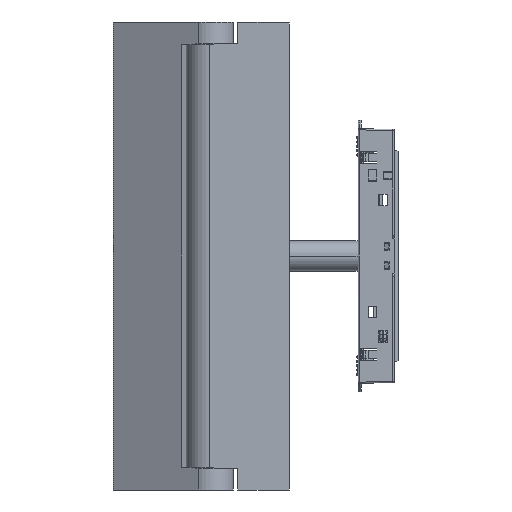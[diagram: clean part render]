
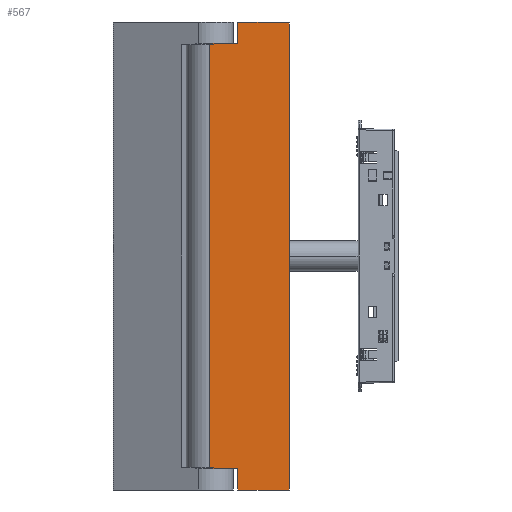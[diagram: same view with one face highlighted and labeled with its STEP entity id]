
A CAD part, left-side view. The second image highlights one B-rep face of the part: STEP entity #567.
In plain terms, the highlighted planar face has unit normal (-1, 0, 0).
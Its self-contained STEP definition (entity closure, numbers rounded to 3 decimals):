
#55=DIRECTION('',(0.,-1.,0.));
#56=VECTOR('',#55,24.);
#57=CARTESIAN_POINT('',(-11.,5.5,-109.));
#58=LINE('',#57,#56);
#101=DIRECTION('',(0.,0.,1.));
#102=VECTOR('',#101,218.);
#103=CARTESIAN_POINT('',(-11.,-18.5,-109.));
#104=LINE('',#103,#102);
#121=DIRECTION('',(0.,-1.,0.));
#122=VECTOR('',#121,13.);
#123=CARTESIAN_POINT('',(-11.,18.5,-99.));
#124=LINE('',#123,#122);
#125=DIRECTION('',(0.,0.,1.));
#126=VECTOR('',#125,198.);
#127=CARTESIAN_POINT('',(-11.,18.5,-99.));
#128=LINE('',#127,#126);
#129=DIRECTION('',(0.,-1.,0.));
#130=VECTOR('',#129,13.);
#131=CARTESIAN_POINT('',(-11.,18.5,99.));
#132=LINE('',#131,#130);
#133=DIRECTION('',(0.,0.,-1.));
#134=VECTOR('',#133,10.);
#135=CARTESIAN_POINT('',(-11.,5.5,109.));
#136=LINE('',#135,#134);
#137=DIRECTION('',(0.,0.,1.));
#138=VECTOR('',#137,10.);
#139=CARTESIAN_POINT('',(-11.,5.5,-109.));
#140=LINE('',#139,#138);
#181=DIRECTION('',(0.,-1.,0.));
#182=VECTOR('',#181,24.);
#183=CARTESIAN_POINT('',(-11.,5.5,109.));
#184=LINE('',#183,#182);
#355=CARTESIAN_POINT('',(-11.,-18.5,-109.));
#357=VERTEX_POINT('',#355);
#359=CARTESIAN_POINT('',(-11.,-18.5,109.));
#361=VERTEX_POINT('',#359);
#364=CARTESIAN_POINT('',(-11.,5.5,109.));
#366=VERTEX_POINT('',#364);
#371=CARTESIAN_POINT('',(-11.,18.5,99.));
#372=VERTEX_POINT('',#371);
#373=CARTESIAN_POINT('',(-11.,5.5,99.));
#374=VERTEX_POINT('',#373);
#375=CARTESIAN_POINT('',(-11.,5.5,-99.));
#377=VERTEX_POINT('',#375);
#380=CARTESIAN_POINT('',(-11.,5.5,-109.));
#382=VERTEX_POINT('',#380);
#385=CARTESIAN_POINT('',(-11.,18.5,-99.));
#386=VERTEX_POINT('',#385);
#548=CARTESIAN_POINT('',(-11.,18.5,-109.));
#549=DIRECTION('',(-1.,0.,0.));
#550=DIRECTION('',(0.,-1.,0.));
#551=AXIS2_PLACEMENT_3D('',#548,#549,#550);
#552=PLANE('',#551);
#553=ORIENTED_EDGE('',*,*,#492,.F.);
#555=ORIENTED_EDGE('',*,*,#554,.T.);
#557=ORIENTED_EDGE('',*,*,#556,.T.);
#559=ORIENTED_EDGE('',*,*,#558,.F.);
#561=ORIENTED_EDGE('',*,*,#560,.T.);
#562=ORIENTED_EDGE('',*,*,#530,.F.);
#563=ORIENTED_EDGE('',*,*,#458,.F.);
#564=ORIENTED_EDGE('',*,*,#474,.T.);
#565=EDGE_LOOP('',(#553,#555,#557,#559,#561,#562,#563,#564));
#566=FACE_OUTER_BOUND('',#565,.F.);
#458=EDGE_CURVE('',#382,#357,#58,.T.);
#474=EDGE_CURVE('',#382,#377,#140,.T.);
#492=EDGE_CURVE('',#386,#377,#124,.T.);
#530=EDGE_CURVE('',#357,#361,#104,.T.);
#554=EDGE_CURVE('',#386,#372,#128,.T.);
#556=EDGE_CURVE('',#372,#374,#132,.T.);
#558=EDGE_CURVE('',#366,#374,#136,.T.);
#560=EDGE_CURVE('',#366,#361,#184,.T.);
#567=ADVANCED_FACE('',(#566),#552,.T.);
